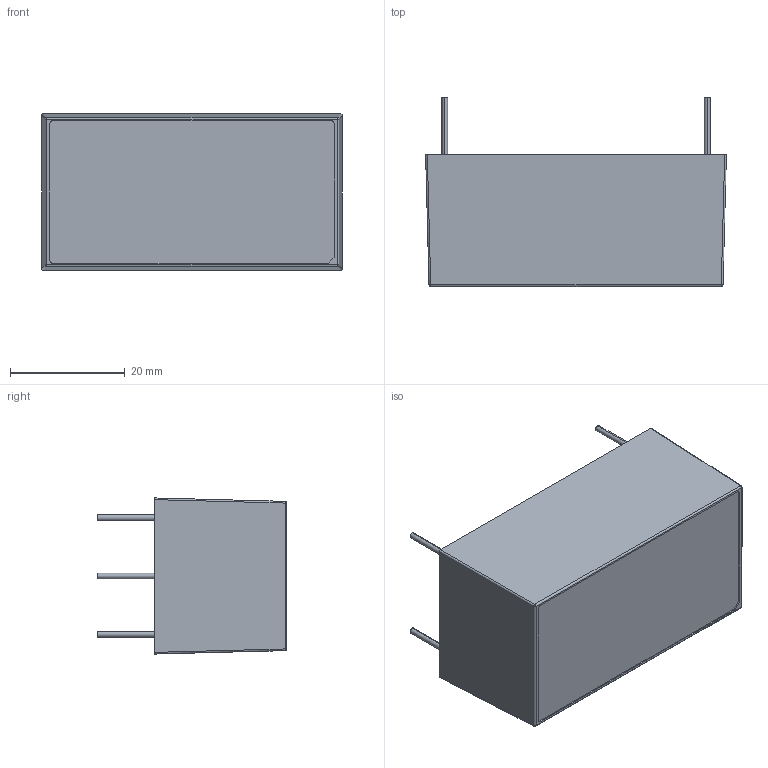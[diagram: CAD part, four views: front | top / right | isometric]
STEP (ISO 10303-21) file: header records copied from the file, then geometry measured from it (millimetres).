
FILE_DESCRIPTION (( 'STEP AP214' ), '1' );
FILE_NAME ('ECE20 STEP.STEP', '2013-11-18T14:05:30', ( '' ), ( '' ), 'SwSTEP 2.0', 'SolidWorks 2013', '' );
FILE_SCHEMA (( 'AUTOMOTIVE_DESIGN' ));
Length unit declared in the file: inch
Products named in the file (5): ECE20 STEP; ECL10 CASE; ECL10 BASE; PIN; ECL10 bump
Assembly tree (7 placements, depth 2):
  ECE20 STEP
    ECL10 bump
    PIN  x4
    ECL10 BASE
    ECL10 CASE
Bounding box: 52.4 x 33 x 27.2 mm (x, y, z)
Volume: 12915.7 mm3; surface area: 14861.8 mm2
Topology: 7 solids, 7 shells, 84 faces, 186 edges, 120 vertices
Faces by surface type: plane 45, cylinder 34, bspline 5
Entity records: 3119 total; most frequent: CARTESIAN_POINT 1210, DIRECTION 360, ORIENTED_EDGE 336, EDGE_CURVE 168, AXIS2_PLACEMENT_3D 127, VERTEX_POINT 108, LINE 106, VECTOR 106
